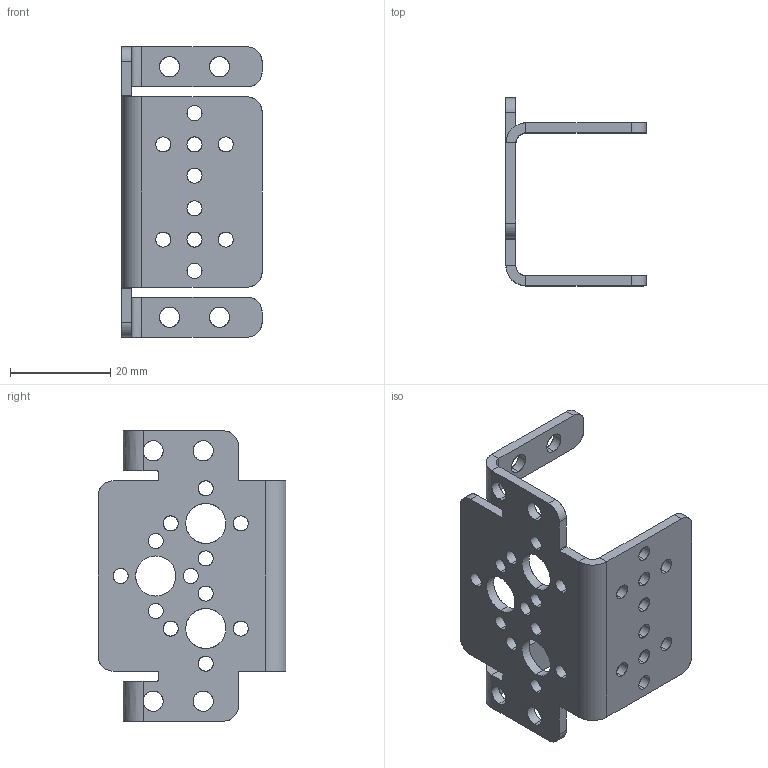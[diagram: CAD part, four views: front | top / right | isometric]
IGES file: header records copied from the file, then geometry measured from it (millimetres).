
Start section: SolidWorks IGES file using analytic representation for surfaces
Global section: file name: C:\Users\Alexandre\Dropbox\Etudes\Solidworks\Servo Mounts\Servo Bracket - U Shaped_Défaut.igs; native system: SolidWorks 2015; preprocessor: SolidWorks 2015; author: Alexandre; date: 150906.125856; units: millimetre
Bounding box: 28 x 37.49 x 58 mm (x, y, z)
Surface area: 7004.2 mm2 (no closed solid volume)
Topology: 0 solids, 0 shells, 124 faces, 2936 edges, 2932 vertices
Faces by surface type: revolution 88, bspline 36
